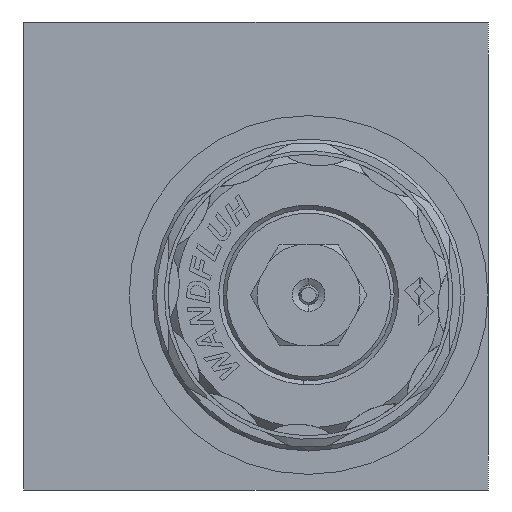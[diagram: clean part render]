
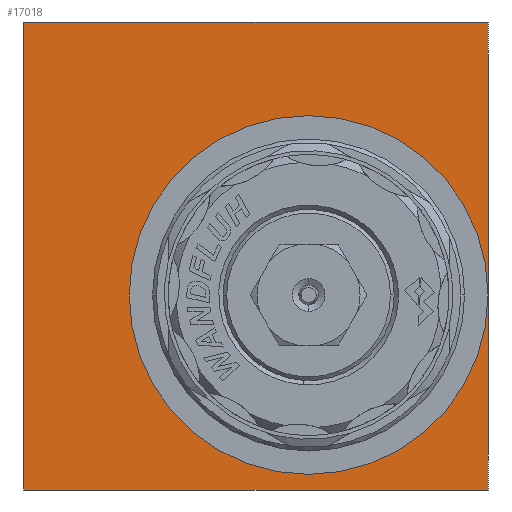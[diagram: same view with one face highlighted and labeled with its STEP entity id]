
A CAD part, left-side view. The second image highlights one B-rep face of the part: STEP entity #17018.
In plain terms, the highlighted planar face has unit normal (-1, 0, 0).
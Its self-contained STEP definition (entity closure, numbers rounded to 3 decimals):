
#205 = FACE_BOUND ( 'NONE', #11763, .T. ) ;
#3689 = DIRECTION ( 'NONE',  ( 0., 0., -1. ) ) ;
#3769 = CARTESIAN_POINT ( 'NONE',  ( 0., -6.745, -5. ) ) ;
#4278 = CARTESIAN_POINT ( 'NONE',  ( 0., -29.75, -30. ) ) ;
#4308 = CARTESIAN_POINT ( 'NONE',  ( 0., 29.75, -30. ) ) ;
#5147 = ORIENTED_EDGE ( 'NONE', *, *, #5463, .F. ) ;
#5210 = EDGE_LOOP ( 'NONE', ( #12948, #8483, #6623, #12595 ) ) ;
#5409 = EDGE_CURVE ( 'NONE', #13880, #9253, #8674, .T. ) ;
#5432 = EDGE_CURVE ( 'NONE', #7431, #13880, #20101, .T. ) ;
#5435 = EDGE_CURVE ( 'NONE', #10467, #7431, #8574, .T. ) ;
#5439 = EDGE_CURVE ( 'NONE', #9253, #10467, #8698, .T. ) ;
#5463 = EDGE_CURVE ( 'NONE', #14737, #6753, #8450, .T. ) ;
#5512 = DIRECTION ( 'NONE',  ( 0., 0., 1. ) ) ;
#6060 = DIRECTION ( 'NONE',  ( 0., 0., 1. ) ) ;
#6623 = ORIENTED_EDGE ( 'NONE', *, *, #5435, .F. ) ;
#6753 = VERTEX_POINT ( 'NONE', #20927 ) ;
#7050 = AXIS2_PLACEMENT_3D ( 'NONE', #4308, #15688, #6060 ) ;
#7431 = VERTEX_POINT ( 'NONE', #14623 ) ;
#7982 = DIRECTION ( 'NONE',  ( -1., 0., 0. ) ) ;
#8305 = VECTOR ( 'NONE', #8739, 1000. ) ;
#8450 = CIRCLE ( 'NONE', #9164, 23. ) ;
#8483 = ORIENTED_EDGE ( 'NONE', *, *, #5432, .F. ) ;
#8497 = VECTOR ( 'NONE', #3689, 1000. ) ;
#8574 = LINE ( 'NONE', #16677, #16496 ) ;
#8594 = VECTOR ( 'NONE', #10222, 1000. ) ;
#8674 = LINE ( 'NONE', #19886, #8594 ) ;
#8698 = LINE ( 'NONE', #13529, #8305 ) ;
#8739 = DIRECTION ( 'NONE',  ( 0., 0., 1. ) ) ;
#9164 = AXIS2_PLACEMENT_3D ( 'NONE', #3769, #15200, #5512 ) ;
#9253 = VERTEX_POINT ( 'NONE', #12293 ) ;
#10042 = ORIENTED_EDGE ( 'NONE', *, *, #18141, .F. ) ;
#10222 = DIRECTION ( 'NONE',  ( 0., 1., 0. ) ) ;
#10467 = VERTEX_POINT ( 'NONE', #11394 ) ;
#11394 = CARTESIAN_POINT ( 'NONE',  ( 0., 29.75, 30. ) ) ;
#11763 = EDGE_LOOP ( 'NONE', ( #5147, #10042 ) ) ;
#12293 = CARTESIAN_POINT ( 'NONE',  ( 0., 29.75, -30. ) ) ;
#12595 = ORIENTED_EDGE ( 'NONE', *, *, #5439, .F. ) ;
#12948 = ORIENTED_EDGE ( 'NONE', *, *, #5409, .F. ) ;
#13182 = CARTESIAN_POINT ( 'NONE',  ( 0., -6.745, 18. ) ) ;
#13467 = CARTESIAN_POINT ( 'NONE',  ( 0., -29.75, 30. ) ) ;
#13529 = CARTESIAN_POINT ( 'NONE',  ( 0., 29.75, 30. ) ) ;
#13880 = VERTEX_POINT ( 'NONE', #4278 ) ;
#14623 = CARTESIAN_POINT ( 'NONE',  ( 0., -29.75, 30. ) ) ;
#14737 = VERTEX_POINT ( 'NONE', #13182 ) ;
#15200 = DIRECTION ( 'NONE',  ( -1., 0., 0. ) ) ;
#15356 = AXIS2_PLACEMENT_3D ( 'NONE', #17614, #7982, #19209 ) ;
#15688 = DIRECTION ( 'NONE',  ( -1., 0., 0. ) ) ;
#16496 = VECTOR ( 'NONE', #16739, 1000. ) ;
#16609 = CIRCLE ( 'NONE', #15356, 23. ) ;
#16677 = CARTESIAN_POINT ( 'NONE',  ( 0., -29.75, 30. ) ) ;
#16739 = DIRECTION ( 'NONE',  ( 0., -1., 0. ) ) ;
#17018 = ADVANCED_FACE ( 'NONE', ( #17496, #205 ), #17237, .T. ) ;
#17237 = PLANE ( 'NONE',  #7050 ) ;
#17496 = FACE_OUTER_BOUND ( 'NONE', #5210, .T. ) ;
#17614 = CARTESIAN_POINT ( 'NONE',  ( 0., -6.745, -5. ) ) ;
#18141 = EDGE_CURVE ( 'NONE', #6753, #14737, #16609, .T. ) ;
#19209 = DIRECTION ( 'NONE',  ( 0., 0., 1. ) ) ;
#19886 = CARTESIAN_POINT ( 'NONE',  ( 0., -29.75, -30. ) ) ;
#20101 = LINE ( 'NONE', #13467, #8497 ) ;
#20927 = CARTESIAN_POINT ( 'NONE',  ( 0., -6.745, -28. ) ) ;
